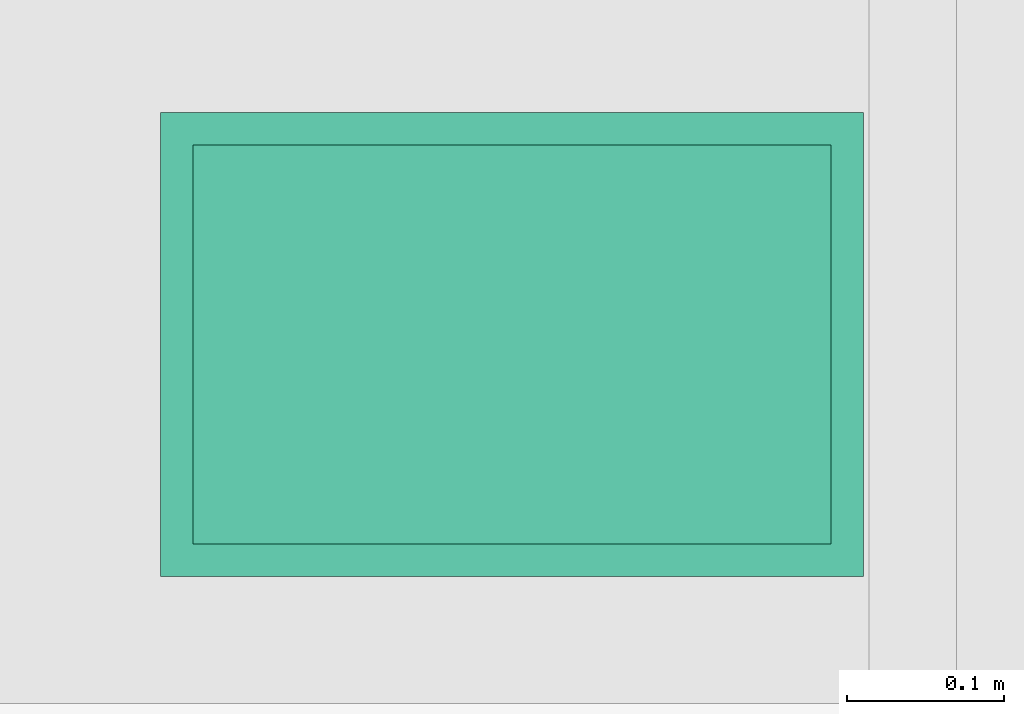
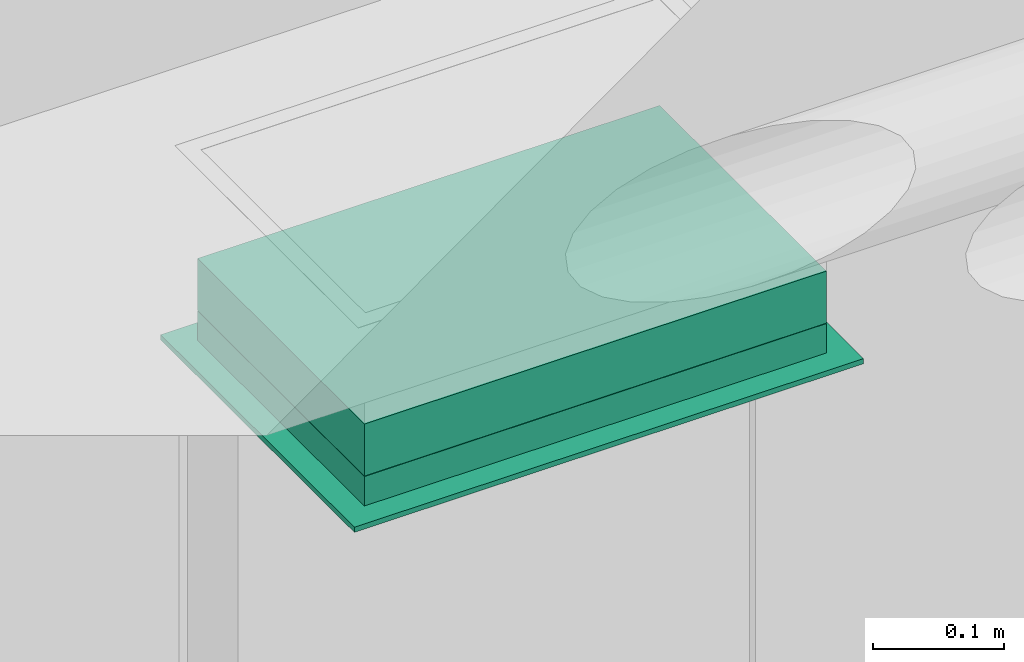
# One storey, part 61 of 108: 1 air terminal, 1 duct segment.
"""IFC4 building model written with IfcOpenShell, lengths in feet."""

from ifc_helpers import new_model, entity, si_unit, converted_unit, derived_unit, direction, frame, frame_2d, origin, place, context, subcontext, project, spatial, rectangle, extrude, source, transform, mapped, type_object, type_shapes, element, save


model = new_model("IFC4")

# Units and contexts
model_context = context("Model", 3, precision=0.0001, world=origin(), true_north=direction((6.12303176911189e-17, 1.0)))
body_context = subcontext(model_context, "Body", "Model", "MODEL_VIEW")
ifc_project = project(units=[converted_unit("LENGTHUNIT", "FOOT", entity("IfcRatioMeasure", 0.3048), si_unit("LENGTHUNIT", "METRE"), dimensions=[1, 0, 0, 0, 0, 0, 0]), converted_unit("AREAUNIT", "SQUARE FOOT", entity("IfcRatioMeasure", 0.09290304), si_unit("AREAUNIT", "SQUARE_METRE"), dimensions=[2, 0, 0, 0, 0, 0, 0]), converted_unit("VOLUMEUNIT", "CUBIC FOOT", entity("IfcRatioMeasure", 0.028316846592), si_unit("VOLUMEUNIT", "CUBIC_METRE"), dimensions=[3, 0, 0, 0, 0, 0, 0]), converted_unit("PLANEANGLEUNIT", "DEGREE", entity("IfcRatioMeasure", 0.0174532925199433), si_unit("PLANEANGLEUNIT", "RADIAN"), dimensions=[0, 0, 0, 0, 0, 0, 0]), si_unit("MASSUNIT", "GRAM", prefix="KILO"), derived_unit("MASSDENSITYUNIT", [(si_unit("MASSUNIT", "GRAM", prefix="KILO"), 1), (si_unit("LENGTHUNIT", "METRE"), -3)]), si_unit("TIMEUNIT", "SECOND"), si_unit("FREQUENCYUNIT", "HERTZ"), si_unit("THERMODYNAMICTEMPERATUREUNIT", "DEGREE_CELSIUS"), derived_unit("THERMALTRANSMITTANCEUNIT", [(si_unit("MASSUNIT", "GRAM", prefix="KILO"), 1), (si_unit("THERMODYNAMICTEMPERATUREUNIT", "KELVIN"), -1), (si_unit("TIMEUNIT", "SECOND"), -3)]), derived_unit("VOLUMETRICFLOWRATEUNIT", [(si_unit("LENGTHUNIT", "METRE"), 3), (si_unit("TIMEUNIT", "SECOND"), -1)]), si_unit("ELECTRICCURRENTUNIT", "AMPERE"), si_unit("ELECTRICVOLTAGEUNIT", "VOLT"), si_unit("POWERUNIT", "WATT"), si_unit("FORCEUNIT", "NEWTON"), si_unit("ILLUMINANCEUNIT", "LUX"), si_unit("LUMINOUSFLUXUNIT", "LUMEN"), si_unit("LUMINOUSINTENSITYUNIT", "CANDELA"), derived_unit("USERDEFINED", [(si_unit("MASSUNIT", "GRAM", prefix="KILO"), -1), (si_unit("LENGTHUNIT", "METRE"), -2), (si_unit("TIMEUNIT", "SECOND"), 3), (si_unit("LUMINOUSFLUXUNIT", "LUMEN"), 1)]), derived_unit("LINEARVELOCITYUNIT", [(si_unit("LENGTHUNIT", "METRE"), 1), (si_unit("TIMEUNIT", "SECOND"), -1)]), si_unit("PRESSUREUNIT", "PASCAL"), derived_unit("USERDEFINED", [(si_unit("LENGTHUNIT", "METRE"), -2), (si_unit("MASSUNIT", "GRAM", prefix="KILO"), 1), (si_unit("TIMEUNIT", "SECOND"), -2)])], contexts=[model_context])

# Site, building, storey
site_placement = place(None, origin())
site = spatial("IfcSite", under=ifc_project, at=site_placement, Name="Default", CompositionType="ELEMENT")
building_placement = place(site_placement, origin())
building = spatial("IfcBuilding", under=site, at=building_placement, CompositionType="ELEMENT")
storey_placement = place(building_placement, frame((0.0, 0.0, 168.0)))
storey = spatial("IfcBuildingStorey", under=building, at=storey_placement, Name="Level 15", CompositionType="ELEMENT", Elevation=168.0)

# Duct segment
duct_segment_type = type_object("IfcDuctSegmentType", Name="Rectangular Duct:Square Throat Elbows / S&D", PredefinedType="NOTDEFINED")
duct_segment_placement = place(storey_placement, frame((-36.9660733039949, 12.7762257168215, 8.59114583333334)))
element("IfcDuctSegment", 1, at=duct_segment_placement, inside=storey, type_object=duct_segment_type, Name="Rectangular Duct:Square Throat Elbows / S&D", ObjectType="Rectangular Duct:Square Throat Elbows / S&D", PredefinedType="NOTDEFINED", context=body_context, shape_type="SweptSolid", body=[
    extrude(rectangle(XDim=1.33333333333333, YDim=0.833333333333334, at=frame_2d((0.0, -2.66453525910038e-15), x_axis=(1.0, 0.0))), frame((0.666666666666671, 0.41666666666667, 0.0)), (0.0, 0.0, 1.0), 0.158854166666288),
])

# Air terminal
air_terminal_type = type_object("IfcAirTerminalType", Name="16x10", PredefinedType="NOTDEFINED")
cartesian_point_1 = entity("IfcCartesianPoint", [0.734375, -0.015625, 0.484374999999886])
vertex_point_1 = entity("IfcVertexPoint", cartesian_point_1)
cartesian_point_2 = entity("IfcCartesianPoint", [-0.734375, -0.015625, 0.484374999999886])
vertex_point_2 = entity("IfcVertexPoint", cartesian_point_2)
ifc_direction_1 = entity("IfcDirection", [-1.0, 0.0, 0.0])
edge_curve_1 = entity("IfcEdgeCurve", vertex_point_1, vertex_point_2, entity("IfcTrimmedCurve", entity("IfcLine", cartesian_point_1, entity("IfcVector", ifc_direction_1, 1.0)), [cartesian_point_1], [cartesian_point_2], True, "CARTESIAN"), True)
cartesian_point_3 = entity("IfcCartesianPoint", [-0.734375, -0.015625, -0.484374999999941])
vertex_point_3 = entity("IfcVertexPoint", cartesian_point_3)
ifc_direction_2 = entity("IfcDirection", [0.0, 0.0, -1.0])
edge_curve_2 = entity("IfcEdgeCurve", vertex_point_2, vertex_point_3, entity("IfcTrimmedCurve", entity("IfcLine", cartesian_point_2, entity("IfcVector", ifc_direction_2, 1.0)), [cartesian_point_2], [cartesian_point_3], True, "CARTESIAN"), True)
cartesian_point_4 = entity("IfcCartesianPoint", [0.734375, -0.015625, -0.484374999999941])
vertex_point_4 = entity("IfcVertexPoint", cartesian_point_4)
ifc_direction_3 = entity("IfcDirection", [1.0, 0.0, 0.0])
edge_curve_3 = entity("IfcEdgeCurve", vertex_point_3, vertex_point_4, entity("IfcTrimmedCurve", entity("IfcLine", cartesian_point_3, entity("IfcVector", ifc_direction_3, 1.0)), [cartesian_point_3], [cartesian_point_4], True, "CARTESIAN"), True)
ifc_direction_4 = entity("IfcDirection", [0.0, 0.0, 1.0])
edge_curve_4 = entity("IfcEdgeCurve", vertex_point_4, vertex_point_1, entity("IfcTrimmedCurve", entity("IfcLine", cartesian_point_4, entity("IfcVector", ifc_direction_4, 1.0)), [cartesian_point_4], [cartesian_point_1], True, "CARTESIAN"), True)
ifc_direction_5 = entity("IfcDirection", [0.0, -1.0, 0.0])
cartesian_point_5 = entity("IfcCartesianPoint", [0.734375, 0.0, 0.484374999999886])
vertex_point_5 = entity("IfcVertexPoint", cartesian_point_5)
cartesian_point_6 = entity("IfcCartesianPoint", [0.734375, 0.0, -0.484374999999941])
vertex_point_6 = entity("IfcVertexPoint", cartesian_point_6)
edge_curve_5 = entity("IfcEdgeCurve", vertex_point_5, vertex_point_6, entity("IfcTrimmedCurve", entity("IfcLine", cartesian_point_5, entity("IfcVector", ifc_direction_2, 1.0)), [cartesian_point_5], [cartesian_point_6], True, "CARTESIAN"), True)
cartesian_point_7 = entity("IfcCartesianPoint", [-0.734375, 0.0, -0.484374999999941])
vertex_point_7 = entity("IfcVertexPoint", cartesian_point_7)
edge_curve_6 = entity("IfcEdgeCurve", vertex_point_6, vertex_point_7, entity("IfcTrimmedCurve", entity("IfcLine", cartesian_point_6, entity("IfcVector", ifc_direction_1, 1.0)), [cartesian_point_6], [cartesian_point_7], True, "CARTESIAN"), True)
cartesian_point_8 = entity("IfcCartesianPoint", [-0.734375, 0.0, 0.484374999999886])
vertex_point_8 = entity("IfcVertexPoint", cartesian_point_8)
edge_curve_7 = entity("IfcEdgeCurve", vertex_point_7, vertex_point_8, entity("IfcTrimmedCurve", entity("IfcLine", cartesian_point_7, entity("IfcVector", ifc_direction_4, 1.0)), [cartesian_point_7], [cartesian_point_8], True, "CARTESIAN"), True)
edge_curve_8 = entity("IfcEdgeCurve", vertex_point_8, vertex_point_5, entity("IfcTrimmedCurve", entity("IfcLine", cartesian_point_8, entity("IfcVector", ifc_direction_3, 1.0)), [cartesian_point_8], [cartesian_point_5], True, "CARTESIAN"), True)
cartesian_point_9 = entity("IfcCartesianPoint", [-0.666666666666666, 0.0, 0.416666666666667])
vertex_point_9 = entity("IfcVertexPoint", cartesian_point_9)
cartesian_point_10 = entity("IfcCartesianPoint", [-0.666666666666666, 0.0, -0.416666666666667])
vertex_point_10 = entity("IfcVertexPoint", cartesian_point_10)
edge_curve_9 = entity("IfcEdgeCurve", vertex_point_9, vertex_point_10, entity("IfcTrimmedCurve", entity("IfcLine", cartesian_point_9, entity("IfcVector", ifc_direction_2, 1.0)), [cartesian_point_9], [cartesian_point_10], True, "CARTESIAN"), True)
cartesian_point_11 = entity("IfcCartesianPoint", [0.666666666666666, 0.0, -0.416666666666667])
vertex_point_11 = entity("IfcVertexPoint", cartesian_point_11)
edge_curve_10 = entity("IfcEdgeCurve", vertex_point_10, vertex_point_11, entity("IfcTrimmedCurve", entity("IfcLine", cartesian_point_10, entity("IfcVector", ifc_direction_3, 1.0)), [cartesian_point_10], [cartesian_point_11], True, "CARTESIAN"), True)
cartesian_point_12 = entity("IfcCartesianPoint", [0.666666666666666, 0.0, 0.416666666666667])
vertex_point_12 = entity("IfcVertexPoint", cartesian_point_12)
edge_curve_11 = entity("IfcEdgeCurve", vertex_point_11, vertex_point_12, entity("IfcTrimmedCurve", entity("IfcLine", cartesian_point_11, entity("IfcVector", ifc_direction_4, 1.0)), [cartesian_point_11], [cartesian_point_12], True, "CARTESIAN"), True)
edge_curve_12 = entity("IfcEdgeCurve", vertex_point_12, vertex_point_9, entity("IfcTrimmedCurve", entity("IfcLine", cartesian_point_12, entity("IfcVector", ifc_direction_1, 1.0)), [cartesian_point_12], [cartesian_point_9], True, "CARTESIAN"), True)
ifc_direction_6 = entity("IfcDirection", [0.0, 1.0, 0.0])
edge_curve_13 = entity("IfcEdgeCurve", vertex_point_1, vertex_point_5, entity("IfcTrimmedCurve", entity("IfcLine", cartesian_point_1, entity("IfcVector", ifc_direction_6, 1.0)), [cartesian_point_1], [cartesian_point_5], True, "CARTESIAN"), True)
edge_curve_14 = entity("IfcEdgeCurve", vertex_point_8, vertex_point_2, entity("IfcTrimmedCurve", entity("IfcLine", cartesian_point_2, entity("IfcVector", ifc_direction_5, 1.0)), [cartesian_point_8], [cartesian_point_2], True, "CARTESIAN"), True)
edge_curve_15 = entity("IfcEdgeCurve", vertex_point_7, vertex_point_3, entity("IfcTrimmedCurve", entity("IfcLine", cartesian_point_3, entity("IfcVector", ifc_direction_5, 1.0)), [cartesian_point_7], [cartesian_point_3], True, "CARTESIAN"), True)
edge_curve_16 = entity("IfcEdgeCurve", vertex_point_6, vertex_point_4, entity("IfcTrimmedCurve", entity("IfcLine", cartesian_point_4, entity("IfcVector", ifc_direction_5, 1.0)), [cartesian_point_6], [cartesian_point_4], True, "CARTESIAN"), True)
cartesian_point_13 = entity("IfcCartesianPoint", [-0.666666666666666, 0.08984375, 0.416666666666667])
vertex_point_13 = entity("IfcVertexPoint", cartesian_point_13)
cartesian_point_14 = entity("IfcCartesianPoint", [0.666666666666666, 0.08984375, 0.416666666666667])
vertex_point_14 = entity("IfcVertexPoint", cartesian_point_14)
edge_curve_17 = entity("IfcEdgeCurve", vertex_point_13, vertex_point_14, entity("IfcTrimmedCurve", entity("IfcLine", cartesian_point_13, entity("IfcVector", ifc_direction_3, 1.0)), [cartesian_point_13], [cartesian_point_14], True, "CARTESIAN"), True)
cartesian_point_15 = entity("IfcCartesianPoint", [0.666666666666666, 0.08984375, -0.416666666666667])
vertex_point_15 = entity("IfcVertexPoint", cartesian_point_15)
edge_curve_18 = entity("IfcEdgeCurve", vertex_point_14, vertex_point_15, entity("IfcTrimmedCurve", entity("IfcLine", cartesian_point_14, entity("IfcVector", ifc_direction_2, 1.0)), [cartesian_point_14], [cartesian_point_15], True, "CARTESIAN"), True)
cartesian_point_16 = entity("IfcCartesianPoint", [-0.666666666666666, 0.08984375, -0.416666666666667])
vertex_point_16 = entity("IfcVertexPoint", cartesian_point_16)
edge_curve_19 = entity("IfcEdgeCurve", vertex_point_15, vertex_point_16, entity("IfcTrimmedCurve", entity("IfcLine", cartesian_point_15, entity("IfcVector", ifc_direction_1, 1.0)), [cartesian_point_15], [cartesian_point_16], True, "CARTESIAN"), True)
edge_curve_20 = entity("IfcEdgeCurve", vertex_point_16, vertex_point_13, entity("IfcTrimmedCurve", entity("IfcLine", cartesian_point_16, entity("IfcVector", ifc_direction_4, 1.0)), [cartesian_point_16], [cartesian_point_13], True, "CARTESIAN"), True)
cartesian_point_17 = entity("IfcCartesianPoint", [-0.645833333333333, 0.08984375, 0.395833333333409])
vertex_point_17 = entity("IfcVertexPoint", cartesian_point_17)
cartesian_point_18 = entity("IfcCartesianPoint", [-0.645833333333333, 0.08984375, -0.39583333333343])
vertex_point_18 = entity("IfcVertexPoint", cartesian_point_18)
edge_curve_21 = entity("IfcEdgeCurve", vertex_point_17, vertex_point_18, entity("IfcTrimmedCurve", entity("IfcLine", cartesian_point_17, entity("IfcVector", ifc_direction_2, 1.0)), [cartesian_point_17], [cartesian_point_18], True, "CARTESIAN"), True)
cartesian_point_19 = entity("IfcCartesianPoint", [0.645833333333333, 0.08984375, -0.39583333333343])
vertex_point_19 = entity("IfcVertexPoint", cartesian_point_19)
edge_curve_22 = entity("IfcEdgeCurve", vertex_point_18, vertex_point_19, entity("IfcTrimmedCurve", entity("IfcLine", cartesian_point_18, entity("IfcVector", ifc_direction_3, 1.0)), [cartesian_point_18], [cartesian_point_19], True, "CARTESIAN"), True)
cartesian_point_20 = entity("IfcCartesianPoint", [0.645833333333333, 0.08984375, 0.395833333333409])
vertex_point_20 = entity("IfcVertexPoint", cartesian_point_20)
edge_curve_23 = entity("IfcEdgeCurve", vertex_point_19, vertex_point_20, entity("IfcTrimmedCurve", entity("IfcLine", cartesian_point_19, entity("IfcVector", ifc_direction_4, 1.0)), [cartesian_point_19], [cartesian_point_20], True, "CARTESIAN"), True)
edge_curve_24 = entity("IfcEdgeCurve", vertex_point_20, vertex_point_17, entity("IfcTrimmedCurve", entity("IfcLine", cartesian_point_20, entity("IfcVector", ifc_direction_1, 1.0)), [cartesian_point_20], [cartesian_point_17], True, "CARTESIAN"), True)
edge_curve_25 = entity("IfcEdgeCurve", vertex_point_16, vertex_point_10, entity("IfcTrimmedCurve", entity("IfcLine", cartesian_point_10, entity("IfcVector", ifc_direction_5, 1.0)), [cartesian_point_16], [cartesian_point_10], True, "CARTESIAN"), True)
edge_curve_26 = entity("IfcEdgeCurve", vertex_point_9, vertex_point_13, entity("IfcTrimmedCurve", entity("IfcLine", cartesian_point_9, entity("IfcVector", ifc_direction_6, 1.0)), [cartesian_point_9], [cartesian_point_13], True, "CARTESIAN"), True)
edge_curve_27 = entity("IfcEdgeCurve", vertex_point_15, vertex_point_11, entity("IfcTrimmedCurve", entity("IfcLine", cartesian_point_11, entity("IfcVector", ifc_direction_5, 1.0)), [cartesian_point_15], [cartesian_point_11], True, "CARTESIAN"), True)
edge_curve_28 = entity("IfcEdgeCurve", vertex_point_14, vertex_point_12, entity("IfcTrimmedCurve", entity("IfcLine", cartesian_point_12, entity("IfcVector", ifc_direction_5, 1.0)), [cartesian_point_14], [cartesian_point_12], True, "CARTESIAN"), True)
cartesian_point_21 = entity("IfcCartesianPoint", [-0.645833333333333, 0.0911458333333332, 0.395833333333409])
vertex_point_21 = entity("IfcVertexPoint", cartesian_point_21)
cartesian_point_22 = entity("IfcCartesianPoint", [0.645833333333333, 0.0911458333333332, 0.395833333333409])
vertex_point_22 = entity("IfcVertexPoint", cartesian_point_22)
edge_curve_29 = entity("IfcEdgeCurve", vertex_point_21, vertex_point_22, entity("IfcTrimmedCurve", entity("IfcLine", cartesian_point_21, entity("IfcVector", ifc_direction_3, 1.0)), [cartesian_point_21], [cartesian_point_22], True, "CARTESIAN"), True)
cartesian_point_23 = entity("IfcCartesianPoint", [0.645833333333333, 0.0911458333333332, -0.39583333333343])
vertex_point_23 = entity("IfcVertexPoint", cartesian_point_23)
edge_curve_30 = entity("IfcEdgeCurve", vertex_point_22, vertex_point_23, entity("IfcTrimmedCurve", entity("IfcLine", cartesian_point_22, entity("IfcVector", ifc_direction_2, 1.0)), [cartesian_point_22], [cartesian_point_23], True, "CARTESIAN"), True)
cartesian_point_24 = entity("IfcCartesianPoint", [-0.645833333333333, 0.0911458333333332, -0.39583333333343])
vertex_point_24 = entity("IfcVertexPoint", cartesian_point_24)
edge_curve_31 = entity("IfcEdgeCurve", vertex_point_23, vertex_point_24, entity("IfcTrimmedCurve", entity("IfcLine", cartesian_point_23, entity("IfcVector", ifc_direction_1, 1.0)), [cartesian_point_23], [cartesian_point_24], True, "CARTESIAN"), True)
edge_curve_32 = entity("IfcEdgeCurve", vertex_point_24, vertex_point_21, entity("IfcTrimmedCurve", entity("IfcLine", cartesian_point_24, entity("IfcVector", ifc_direction_4, 1.0)), [cartesian_point_24], [cartesian_point_21], True, "CARTESIAN"), True)
edge_curve_33 = entity("IfcEdgeCurve", vertex_point_24, vertex_point_18, entity("IfcTrimmedCurve", entity("IfcLine", cartesian_point_18, entity("IfcVector", ifc_direction_5, 1.0)), [cartesian_point_24], [cartesian_point_18], True, "CARTESIAN"), True)
edge_curve_34 = entity("IfcEdgeCurve", vertex_point_17, vertex_point_21, entity("IfcTrimmedCurve", entity("IfcLine", cartesian_point_17, entity("IfcVector", ifc_direction_6, 1.0)), [cartesian_point_17], [cartesian_point_21], True, "CARTESIAN"), True)
edge_curve_35 = entity("IfcEdgeCurve", vertex_point_23, vertex_point_19, entity("IfcTrimmedCurve", entity("IfcLine", cartesian_point_19, entity("IfcVector", ifc_direction_5, 1.0)), [cartesian_point_23], [cartesian_point_19], True, "CARTESIAN"), True)
edge_curve_36 = entity("IfcEdgeCurve", vertex_point_22, vertex_point_20, entity("IfcTrimmedCurve", entity("IfcLine", cartesian_point_20, entity("IfcVector", ifc_direction_5, 1.0)), [cartesian_point_22], [cartesian_point_20], True, "CARTESIAN"), True)
shared_shape = source(origin(), body_context, "Body", "AdvancedBrep", [
    entity("IfcAdvancedBrep", entity("IfcClosedShell", [entity("IfcAdvancedFace", [entity("IfcFaceOuterBound", entity("IfcEdgeLoop", [entity("IfcOrientedEdge", None, None, edge_curve_1, True), entity("IfcOrientedEdge", None, None, edge_curve_2, True), entity("IfcOrientedEdge", None, None, edge_curve_3, True), entity("IfcOrientedEdge", None, None, edge_curve_4, True)]), True)], entity("IfcPlane", entity("IfcAxis2Placement3D", cartesian_point_2, ifc_direction_5, ifc_direction_1)), True), entity("IfcAdvancedFace", [entity("IfcFaceOuterBound", entity("IfcEdgeLoop", [entity("IfcOrientedEdge", None, None, edge_curve_5, True), entity("IfcOrientedEdge", None, None, edge_curve_6, True), entity("IfcOrientedEdge", None, None, edge_curve_7, True), entity("IfcOrientedEdge", None, None, edge_curve_8, True)]), True), entity("IfcFaceBound", entity("IfcEdgeLoop", [entity("IfcOrientedEdge", None, None, edge_curve_9, True), entity("IfcOrientedEdge", None, None, edge_curve_10, True), entity("IfcOrientedEdge", None, None, edge_curve_11, True), entity("IfcOrientedEdge", None, None, edge_curve_12, True)]), False)], entity("IfcPlane", entity("IfcAxis2Placement3D", cartesian_point_8, ifc_direction_6, ifc_direction_3)), True), entity("IfcAdvancedFace", [entity("IfcFaceOuterBound", entity("IfcEdgeLoop", [entity("IfcOrientedEdge", None, None, edge_curve_1, False), entity("IfcOrientedEdge", None, None, edge_curve_13, True), entity("IfcOrientedEdge", None, None, edge_curve_8, False), entity("IfcOrientedEdge", None, None, edge_curve_14, True)]), True)], entity("IfcPlane", entity("IfcAxis2Placement3D", cartesian_point_1, ifc_direction_4, ifc_direction_6)), True), entity("IfcAdvancedFace", [entity("IfcFaceOuterBound", entity("IfcEdgeLoop", [entity("IfcOrientedEdge", None, None, edge_curve_2, False), entity("IfcOrientedEdge", None, None, edge_curve_14, False), entity("IfcOrientedEdge", None, None, edge_curve_7, False), entity("IfcOrientedEdge", None, None, edge_curve_15, True)]), True)], entity("IfcPlane", entity("IfcAxis2Placement3D", cartesian_point_2, ifc_direction_1, ifc_direction_6)), True), entity("IfcAdvancedFace", [entity("IfcFaceOuterBound", entity("IfcEdgeLoop", [entity("IfcOrientedEdge", None, None, edge_curve_3, False), entity("IfcOrientedEdge", None, None, edge_curve_15, False), entity("IfcOrientedEdge", None, None, edge_curve_6, False), entity("IfcOrientedEdge", None, None, edge_curve_16, True)]), True)], entity("IfcPlane", entity("IfcAxis2Placement3D", cartesian_point_3, ifc_direction_2, ifc_direction_6)), True), entity("IfcAdvancedFace", [entity("IfcFaceOuterBound", entity("IfcEdgeLoop", [entity("IfcOrientedEdge", None, None, edge_curve_4, False), entity("IfcOrientedEdge", None, None, edge_curve_16, False), entity("IfcOrientedEdge", None, None, edge_curve_5, False), entity("IfcOrientedEdge", None, None, edge_curve_13, False)]), True)], entity("IfcPlane", entity("IfcAxis2Placement3D", cartesian_point_4, ifc_direction_3, ifc_direction_6)), True), entity("IfcAdvancedFace", [entity("IfcFaceOuterBound", entity("IfcEdgeLoop", [entity("IfcOrientedEdge", None, None, edge_curve_17, True), entity("IfcOrientedEdge", None, None, edge_curve_18, True), entity("IfcOrientedEdge", None, None, edge_curve_19, True), entity("IfcOrientedEdge", None, None, edge_curve_20, True)]), True), entity("IfcFaceBound", entity("IfcEdgeLoop", [entity("IfcOrientedEdge", None, None, edge_curve_21, True), entity("IfcOrientedEdge", None, None, edge_curve_22, True), entity("IfcOrientedEdge", None, None, edge_curve_23, True), entity("IfcOrientedEdge", None, None, edge_curve_24, True)]), False)], entity("IfcPlane", entity("IfcAxis2Placement3D", cartesian_point_13, ifc_direction_6, ifc_direction_4)), True), entity("IfcAdvancedFace", [entity("IfcFaceOuterBound", entity("IfcEdgeLoop", [entity("IfcOrientedEdge", None, None, edge_curve_20, False), entity("IfcOrientedEdge", None, None, edge_curve_25, True), entity("IfcOrientedEdge", None, None, edge_curve_9, False), entity("IfcOrientedEdge", None, None, edge_curve_26, True)]), True)], entity("IfcPlane", entity("IfcAxis2Placement3D", cartesian_point_9, ifc_direction_1, ifc_direction_6)), True), entity("IfcAdvancedFace", [entity("IfcFaceOuterBound", entity("IfcEdgeLoop", [entity("IfcOrientedEdge", None, None, edge_curve_19, False), entity("IfcOrientedEdge", None, None, edge_curve_27, True), entity("IfcOrientedEdge", None, None, edge_curve_10, False), entity("IfcOrientedEdge", None, None, edge_curve_25, False)]), True)], entity("IfcPlane", entity("IfcAxis2Placement3D", cartesian_point_10, ifc_direction_2, ifc_direction_6)), True), entity("IfcAdvancedFace", [entity("IfcFaceOuterBound", entity("IfcEdgeLoop", [entity("IfcOrientedEdge", None, None, edge_curve_18, False), entity("IfcOrientedEdge", None, None, edge_curve_28, True), entity("IfcOrientedEdge", None, None, edge_curve_11, False), entity("IfcOrientedEdge", None, None, edge_curve_27, False)]), True)], entity("IfcPlane", entity("IfcAxis2Placement3D", cartesian_point_11, ifc_direction_3, ifc_direction_6)), True), entity("IfcAdvancedFace", [entity("IfcFaceOuterBound", entity("IfcEdgeLoop", [entity("IfcOrientedEdge", None, None, edge_curve_17, False), entity("IfcOrientedEdge", None, None, edge_curve_26, False), entity("IfcOrientedEdge", None, None, edge_curve_12, False), entity("IfcOrientedEdge", None, None, edge_curve_28, False)]), True)], entity("IfcPlane", entity("IfcAxis2Placement3D", cartesian_point_12, ifc_direction_4, ifc_direction_6)), True), entity("IfcAdvancedFace", [entity("IfcFaceOuterBound", entity("IfcEdgeLoop", [entity("IfcOrientedEdge", None, None, edge_curve_29, True), entity("IfcOrientedEdge", None, None, edge_curve_30, True), entity("IfcOrientedEdge", None, None, edge_curve_31, True), entity("IfcOrientedEdge", None, None, edge_curve_32, True)]), True)], entity("IfcPlane", entity("IfcAxis2Placement3D", cartesian_point_21, ifc_direction_6, ifc_direction_4)), True), entity("IfcAdvancedFace", [entity("IfcFaceOuterBound", entity("IfcEdgeLoop", [entity("IfcOrientedEdge", None, None, edge_curve_32, False), entity("IfcOrientedEdge", None, None, edge_curve_33, True), entity("IfcOrientedEdge", None, None, edge_curve_21, False), entity("IfcOrientedEdge", None, None, edge_curve_34, True)]), True)], entity("IfcPlane", entity("IfcAxis2Placement3D", cartesian_point_17, ifc_direction_1, ifc_direction_6)), True), entity("IfcAdvancedFace", [entity("IfcFaceOuterBound", entity("IfcEdgeLoop", [entity("IfcOrientedEdge", None, None, edge_curve_31, False), entity("IfcOrientedEdge", None, None, edge_curve_35, True), entity("IfcOrientedEdge", None, None, edge_curve_22, False), entity("IfcOrientedEdge", None, None, edge_curve_33, False)]), True)], entity("IfcPlane", entity("IfcAxis2Placement3D", cartesian_point_18, ifc_direction_2, ifc_direction_6)), True), entity("IfcAdvancedFace", [entity("IfcFaceOuterBound", entity("IfcEdgeLoop", [entity("IfcOrientedEdge", None, None, edge_curve_30, False), entity("IfcOrientedEdge", None, None, edge_curve_36, True), entity("IfcOrientedEdge", None, None, edge_curve_23, False), entity("IfcOrientedEdge", None, None, edge_curve_35, False)]), True)], entity("IfcPlane", entity("IfcAxis2Placement3D", cartesian_point_19, ifc_direction_3, ifc_direction_6)), True), entity("IfcAdvancedFace", [entity("IfcFaceOuterBound", entity("IfcEdgeLoop", [entity("IfcOrientedEdge", None, None, edge_curve_29, False), entity("IfcOrientedEdge", None, None, edge_curve_34, False), entity("IfcOrientedEdge", None, None, edge_curve_24, False), entity("IfcOrientedEdge", None, None, edge_curve_36, False)]), True)], entity("IfcPlane", entity("IfcAxis2Placement3D", cartesian_point_20, ifc_direction_4, ifc_direction_6)), True)])),
])
type_shapes(air_terminal_type, [shared_shape])
air_terminal_placement = place(storey_placement, frame((-36.2994066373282, 13.1928923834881, 8.5), z_axis=(0.0, -1.0, 0.0), x_axis=(1.0, 0.0, 0.0)))
element("IfcAirTerminal", 2, at=air_terminal_placement, inside=storey, type_object=air_terminal_type, Name="Supply Diffuser - Sidewall:16x10", ObjectType="Supply Diffuser - Sidewall:16x10", PredefinedType="NOTDEFINED", context=body_context, shape_type="MappedRepresentation", body=[
    mapped(shared_shape, transform((0.0, 0.0, 0.0), scale=1.0)),
])

save(model, "model.ifc")
